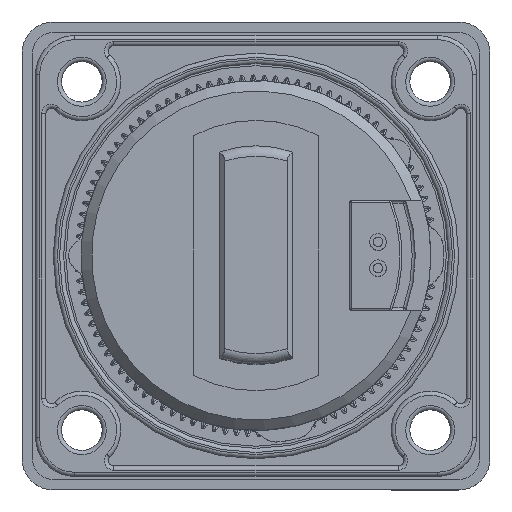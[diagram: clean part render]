
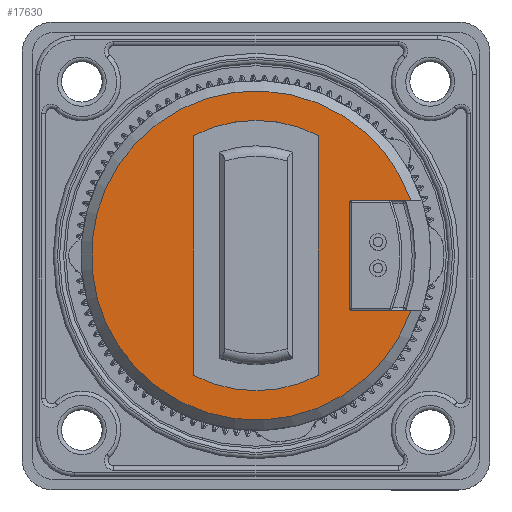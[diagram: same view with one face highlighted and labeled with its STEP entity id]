
A CAD part, top view. The second image highlights one B-rep face of the part: STEP entity #17630.
In plain terms, the highlighted planar face has unit normal (0, 0, 1).
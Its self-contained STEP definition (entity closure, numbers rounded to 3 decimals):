
#4 = FACE_OUTER_BOUND ( 'NONE', #23220, .T. ) ;
#67 = LINE ( 'NONE', #17883, #9233 ) ;
#200 = CARTESIAN_POINT ( 'NONE',  ( 14.911, -5.3, 28.5 ) ) ;
#681 = VECTOR ( 'NONE', #10627, 1000. ) ;
#1393 = DIRECTION ( 'NONE',  ( -1., 0., 0. ) ) ;
#2438 = ORIENTED_EDGE ( 'NONE', *, *, #4724, .F. ) ;
#2758 = CARTESIAN_POINT ( 'NONE',  ( 9., 5.1, 28.5 ) ) ;
#3049 = CARTESIAN_POINT ( 'NONE',  ( 0., 0., 28.5 ) ) ;
#3759 = CARTESIAN_POINT ( 'NONE',  ( 6., 11.533, 28.5 ) ) ;
#3963 = CARTESIAN_POINT ( 'NONE',  ( 9., -5.3, 28.5 ) ) ;
#4054 = EDGE_CURVE ( 'NONE', #18026, #13506, #15196, .T. ) ;
#4100 = EDGE_CURVE ( 'NONE', #13506, #21003, #15552, .T. ) ;
#4107 = EDGE_CURVE ( 'NONE', #21003, #14073, #15653, .T. ) ;
#4148 = EDGE_CURVE ( 'NONE', #14073, #18026, #17810, .T. ) ;
#4196 = EDGE_CURVE ( 'NONE', #27688, #6754, #21990, .T. ) ;
#4239 = EDGE_CURVE ( 'NONE', #22559, #6754, #21655, .T. ) ;
#4252 = EDGE_CURVE ( 'NONE', #16906, #22559, #23646, .T. ) ;
#4290 = EDGE_CURVE ( 'NONE', #30043, #16906, #23146, .T. ) ;
#4334 = EDGE_CURVE ( 'NONE', #30043, #30286, #28554, .T. ) ;
#4679 = EDGE_CURVE ( 'NONE', #20247, #9303, #10403, .T. ) ;
#4684 = EDGE_CURVE ( 'NONE', #30286, #9303, #9640, .T. ) ;
#4724 = EDGE_CURVE ( 'NONE', #20247, #27688, #67, .T. ) ;
#4753 = CARTESIAN_POINT ( 'NONE',  ( 6., -11.533, 28.5 ) ) ;
#5384 = ORIENTED_EDGE ( 'NONE', *, *, #4239, .T. ) ;
#5595 = DIRECTION ( 'NONE',  ( 0., 1., 0. ) ) ;
#6100 = CARTESIAN_POINT ( 'NONE',  ( 0., 0., 28.5 ) ) ;
#6302 = ORIENTED_EDGE ( 'NONE', *, *, #4148, .F. ) ;
#6754 = VERTEX_POINT ( 'NONE', #18867 ) ;
#6774 = ORIENTED_EDGE ( 'NONE', *, *, #4107, .F. ) ;
#7205 = AXIS2_PLACEMENT_3D ( 'NONE', #3049, #20338, #5595 ) ;
#8014 = AXIS2_PLACEMENT_3D ( 'NONE', #14123, #30616, #16549 ) ;
#8025 = AXIS2_PLACEMENT_3D ( 'NONE', #11590, #28182, #14026 ) ;
#8168 = AXIS2_PLACEMENT_3D ( 'NONE', #23354, #8802, #25675 ) ;
#8176 = AXIS2_PLACEMENT_3D ( 'NONE', #6100, #23239, #8699 ) ;
#8699 = DIRECTION ( 'NONE',  ( 0., 1., 0. ) ) ;
#8802 = DIRECTION ( 'NONE',  ( 0., 0., 1. ) ) ;
#9140 = ORIENTED_EDGE ( 'NONE', *, *, #4684, .F. ) ;
#9233 = VECTOR ( 'NONE', #13161, 1000. ) ;
#9303 = VERTEX_POINT ( 'NONE', #200 ) ;
#9640 = LINE ( 'NONE', #29554, #681 ) ;
#9950 = ORIENTED_EDGE ( 'NONE', *, *, #4334, .F. ) ;
#10403 = CIRCLE ( 'NONE', #7205, 15.825 ) ;
#10627 = DIRECTION ( 'NONE',  ( 1., 0., 0. ) ) ;
#11174 = DIRECTION ( 'NONE',  ( 0., 1., 0. ) ) ;
#11590 = CARTESIAN_POINT ( 'NONE',  ( 9.2, 5.1, 28.5 ) ) ;
#12470 = PLANE ( 'NONE',  #22300 ) ;
#12572 = CARTESIAN_POINT ( 'NONE',  ( 0., 0., 28.5 ) ) ;
#13161 = DIRECTION ( 'NONE',  ( -1., 0., 0. ) ) ;
#13420 = FACE_BOUND ( 'NONE', #30782, .T. ) ;
#13450 = ORIENTED_EDGE ( 'NONE', *, *, #4252, .T. ) ;
#13506 = VERTEX_POINT ( 'NONE', #17494 ) ;
#14026 = DIRECTION ( 'NONE',  ( 0., 1., 0. ) ) ;
#14073 = VERTEX_POINT ( 'NONE', #3759 ) ;
#14123 = CARTESIAN_POINT ( 'NONE',  ( 9.2, -5.1, 28.5 ) ) ;
#15003 = DIRECTION ( 'NONE',  ( 0., 1., 0. ) ) ;
#15170 = VECTOR ( 'NONE', #25486, 1000. ) ;
#15196 = LINE ( 'NONE', #20696, #15170 ) ;
#15552 = CIRCLE ( 'NONE', #8176, 13. ) ;
#15653 = LINE ( 'NONE', #20793, #17108 ) ;
#16549 = DIRECTION ( 'NONE',  ( 0., 1., 0. ) ) ;
#16906 = VERTEX_POINT ( 'NONE', #25855 ) ;
#17108 = VECTOR ( 'NONE', #11174, 1000. ) ;
#17494 = CARTESIAN_POINT ( 'NONE',  ( -6., -11.533, 28.5 ) ) ;
#17630 = ADVANCED_FACE ( 'NONE', ( #4, #13420 ), #12470, .T. ) ;
#17810 = CIRCLE ( 'NONE', #8168, 13. ) ;
#17883 = CARTESIAN_POINT ( 'NONE',  ( 9., 5.3, 28.5 ) ) ;
#18026 = VERTEX_POINT ( 'NONE', #29570 ) ;
#18867 = CARTESIAN_POINT ( 'NONE',  ( 9.2, 5.3, 28.5 ) ) ;
#20247 = VERTEX_POINT ( 'NONE', #24646 ) ;
#20338 = DIRECTION ( 'NONE',  ( 0., 0., 1. ) ) ;
#20696 = CARTESIAN_POINT ( 'NONE',  ( -6., -11.533, 28.5 ) ) ;
#20793 = CARTESIAN_POINT ( 'NONE',  ( 6., -11.533, 28.5 ) ) ;
#20897 = DIRECTION ( 'NONE',  ( 0., 1., 0. ) ) ;
#21003 = VERTEX_POINT ( 'NONE', #4753 ) ;
#21655 = CIRCLE ( 'NONE', #8025, 0.2 ) ;
#21990 = LINE ( 'NONE', #30412, #22804 ) ;
#22045 = CARTESIAN_POINT ( 'NONE',  ( 9.2, -5.3, 28.5 ) ) ;
#22300 = AXIS2_PLACEMENT_3D ( 'NONE', #12572, #29119, #15003 ) ;
#22559 = VERTEX_POINT ( 'NONE', #2758 ) ;
#22804 = VECTOR ( 'NONE', #1393, 1000. ) ;
#22889 = ORIENTED_EDGE ( 'NONE', *, *, #4679, .T. ) ;
#23085 = CARTESIAN_POINT ( 'NONE',  ( 12.877, 5.3, 28.5 ) ) ;
#23146 = CIRCLE ( 'NONE', #8014, 0.2 ) ;
#23185 = ORIENTED_EDGE ( 'NONE', *, *, #4054, .F. ) ;
#23220 = EDGE_LOOP ( 'NONE', ( #22889, #9140, #9950, #26529, #13450, #5384, #27192, #2438 ) ) ;
#23239 = DIRECTION ( 'NONE',  ( 0., 0., 1. ) ) ;
#23354 = CARTESIAN_POINT ( 'NONE',  ( 0., 0., 28.5 ) ) ;
#23646 = LINE ( 'NONE', #3963, #24340 ) ;
#24340 = VECTOR ( 'NONE', #20897, 1000. ) ;
#24646 = CARTESIAN_POINT ( 'NONE',  ( 14.911, 5.3, 28.5 ) ) ;
#25486 = DIRECTION ( 'NONE',  ( 0., -1., 0. ) ) ;
#25675 = DIRECTION ( 'NONE',  ( 0., 1., 0. ) ) ;
#25855 = CARTESIAN_POINT ( 'NONE',  ( 9., -5.1, 28.5 ) ) ;
#26529 = ORIENTED_EDGE ( 'NONE', *, *, #4290, .T. ) ;
#27192 = ORIENTED_EDGE ( 'NONE', *, *, #4196, .F. ) ;
#27688 = VERTEX_POINT ( 'NONE', #23085 ) ;
#28182 = DIRECTION ( 'NONE',  ( 0., 0., -1. ) ) ;
#28281 = DIRECTION ( 'NONE',  ( 1., 0., 0. ) ) ;
#28451 = VECTOR ( 'NONE', #28281, 1000. ) ;
#28554 = LINE ( 'NONE', #30708, #28451 ) ;
#29119 = DIRECTION ( 'NONE',  ( 0., 0., 1. ) ) ;
#29491 = CARTESIAN_POINT ( 'NONE',  ( 12.877, -5.3, 28.5 ) ) ;
#29554 = CARTESIAN_POINT ( 'NONE',  ( 9., -5.3, 28.5 ) ) ;
#29570 = CARTESIAN_POINT ( 'NONE',  ( -6., 11.533, 28.5 ) ) ;
#30043 = VERTEX_POINT ( 'NONE', #22045 ) ;
#30286 = VERTEX_POINT ( 'NONE', #29491 ) ;
#30412 = CARTESIAN_POINT ( 'NONE',  ( 9., 5.3, 28.5 ) ) ;
#30616 = DIRECTION ( 'NONE',  ( 0., 0., -1. ) ) ;
#30708 = CARTESIAN_POINT ( 'NONE',  ( 9., -5.3, 28.5 ) ) ;
#30782 = EDGE_LOOP ( 'NONE', ( #6302, #6774, #31017, #23185 ) ) ;
#31017 = ORIENTED_EDGE ( 'NONE', *, *, #4100, .F. ) ;
